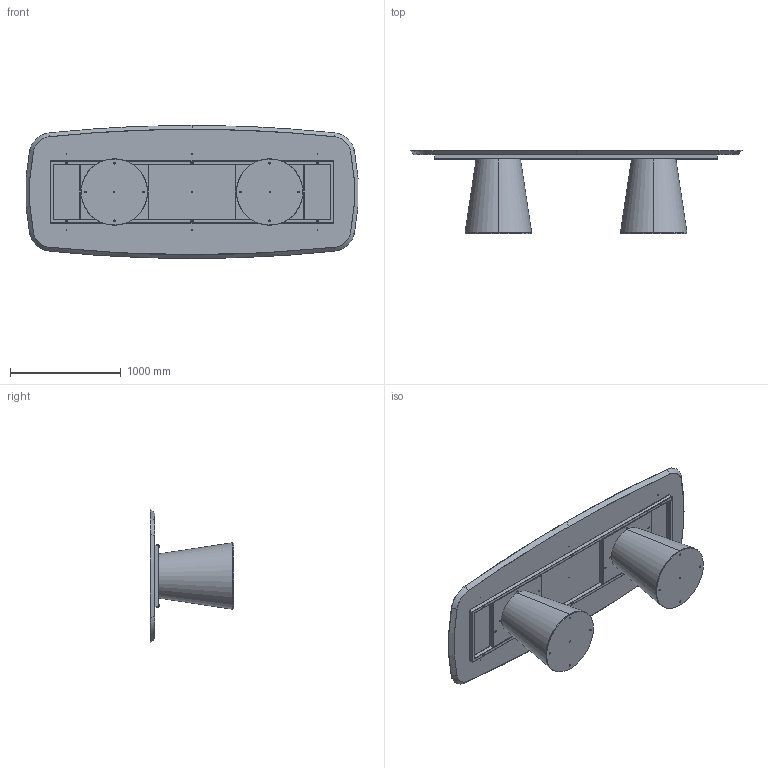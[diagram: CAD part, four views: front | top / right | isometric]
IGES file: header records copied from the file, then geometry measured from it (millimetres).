
Start section: SolidWorks IGES file using analytic representation for surfaces
Global section: file name: Y:\eforma\TECNICO\SOLIDWORKS\E-FORMA\1-TAVOLI\TEO\08 modelli 3D web\TO44W_Teo_300x120_Wood Shaped.IGS; native system: SolidWorks 2022; preprocessor: SolidWorks 2022; author: eforma.tech; date: 240802.114043; units: millimetre
Bounding box: 2991.72 x 751.19 x 1200 mm (x, y, z)
Volume: 183390647 mm3; surface area: 16488563.2 mm2
Topology: 28 solids, 28 shells, 1143 faces, 2622 edges, 1500 vertices
Faces by surface type: revolution 657, plane 486
